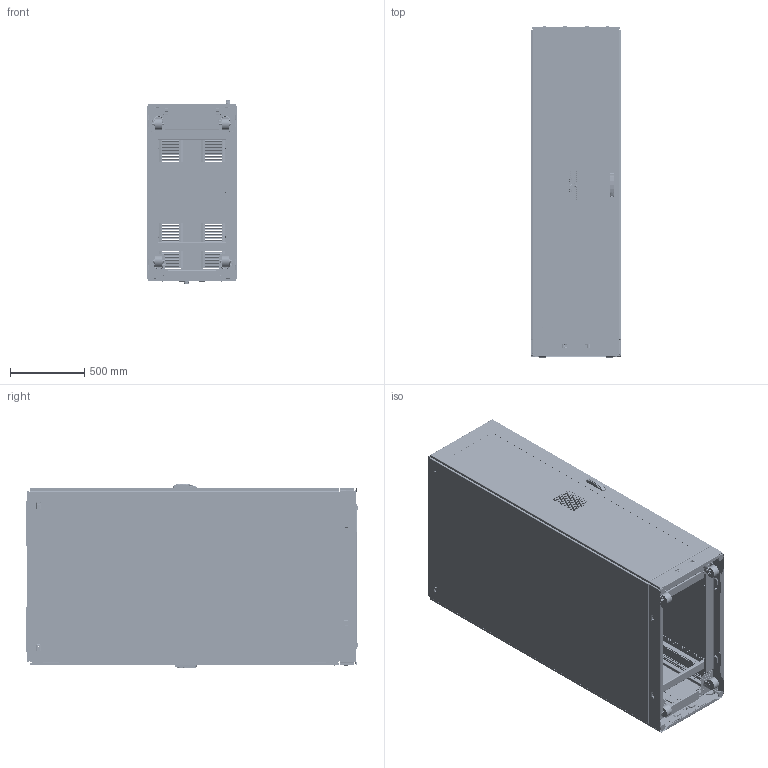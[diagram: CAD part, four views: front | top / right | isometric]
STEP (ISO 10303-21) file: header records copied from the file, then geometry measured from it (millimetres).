
FILE_DESCRIPTION (( 'STEP AP203' ), '1' );
FILE_NAME ('ps1spe21612b.STEP', '2021-04-06T15:15:08', ( '' ), ( '' ), 'SwSTEP 2.0', 'SolidWorks 2016', '' );
FILE_SCHEMA (( 'CONFIG_CONTROL_DESIGN' ));
Length unit declared in the file: millimetre
Products named in the file (110): 60127372_60127372; 11258029_11258029; 89165658; 89101845; 89186208; 89183795_Compressed_Barrier Panel; 89186222; 89183284; 87931362_87931362; 87753837_87753837; 14308887_Full length; 89165526_89165526; 89165739_21458568; 89186162; 87938982_87938982; 89166358; 87927840_87927840; 87931527_87931527; 89185541_Pre-installation; 89165870; 89070873_89070873; 91120001_91120001; 11158141_11158141; 89186160; 99401452; 89166361; 64210001; 89167116_89167116; 87755569; 87780929; 60127101_60127101; 87920638_87920638; 11458172_11458172; 87931368_SLEEVE; 64201001; 89165660_87788601; 89186143; 89186245; 89092909_87788538; 60127207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
Assembly tree (242 placements, depth 6):
  ps1spe21612b
    89070873_89070873  x4
    89166358  x2
      89166359
      87923500
      87933633_87933633
    89166360  x2
      89166361
      87933633_87933633
      87923500
    89160886  x8
      89160885
      99405840_99405840
    89160224  x4
    89165738
      89165739_21458568
        89165740_87954630
        60127101_After Weld  x2
        60100041_60100041  x2
          87931527_87931527
          87931368_SLEEVE
        87920638_87920638  x6
        89165741_87788602
      89091664_875472289  x4
      89101845  x4
      89165751_89165751  x2
      87753837_87753837  x2
      89168254_1 INCH SQUARE  x3
      89165870
    89165655
      89165656
        89165657_87788599
        60127101_60127101  x2
        60100041_60100041  x2
          87931527_87931527
          87931368_SLEEVE
        89093694_87788602
        99411910  x2
        87931362_87931362  x2
      60127372_60127372
        11158139_11158139
        11258030_11258030
        11458172_11458172
        60127208
        60127207
        11458171_11458171
        11358776_11358776
        11158180_11158180
        11258029_11258029
        11158141_11158141
        11158140_11158140
      27131001  x2
      91120001_91120001  x2
      87938982_87938982
        64201001
        87541995
        87932266
        87927840_87927840
        64210001
        87950638_87950638
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Bounding box: 611.95 x 2239.84 x 1247.87 mm (x, y, z)
Volume: 26470145.9 mm3; surface area: 27861527.2 mm2
Topology: 313 solids, 354 shells, 39604 faces, 105472 edges, 67804 vertices
Faces by surface type: plane 19607, cylinder 15548, bspline 1665, torus 1346, cone 1291, sphere 147
Entity records: 563392 total; most frequent: CARTESIAN_POINT 155755, ORIENTED_EDGE 81186, DIRECTION 80482, EDGE_CURVE 40613, AXIS2_PLACEMENT_3D 28668, VERTEX_POINT 26178, LINE 23146, VECTOR 23146
